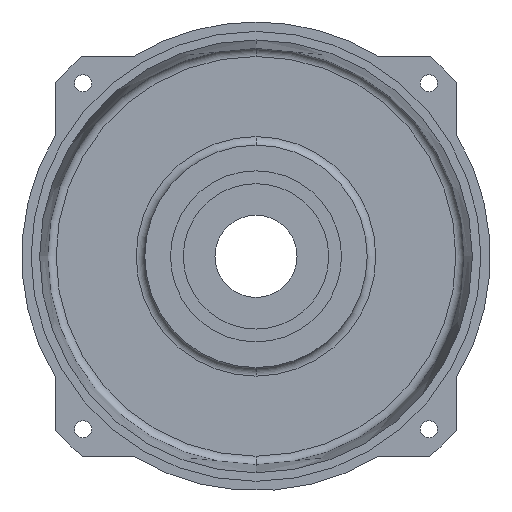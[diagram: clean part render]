
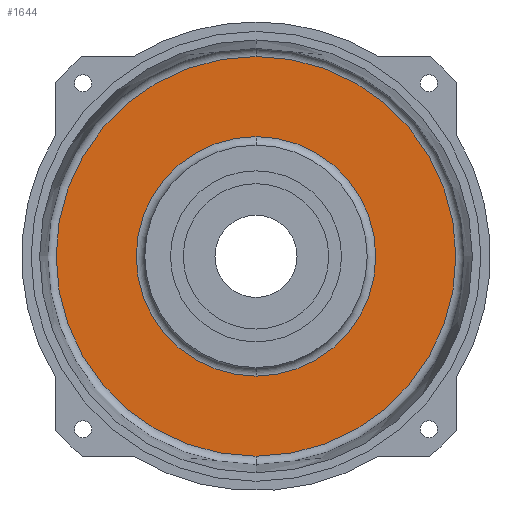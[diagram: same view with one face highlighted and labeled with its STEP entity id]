
A CAD part, front view. The second image highlights one B-rep face of the part: STEP entity #1644.
In plain terms, the highlighted planar face has unit normal (0, -1, 0).
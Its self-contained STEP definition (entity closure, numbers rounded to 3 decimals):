
#195 = CARTESIAN_POINT ( 'NONE',  ( 0., 15.906, 70. ) ) ;
#239 = VERTEX_POINT ( 'NONE', #963 ) ;
#246 = EDGE_CURVE ( 'NONE', #239, #1934, #1000, .T. ) ;
#258 = EDGE_LOOP ( 'NONE', ( #1380, #2303 ) ) ;
#322 = CARTESIAN_POINT ( 'NONE',  ( 0., 15.906, 0. ) ) ;
#326 = CARTESIAN_POINT ( 'NONE',  ( 0., 15.906, 0. ) ) ;
#335 = EDGE_LOOP ( 'NONE', ( #2119, #2733 ) ) ;
#349 = CIRCLE ( 'NONE', #1347, 70. ) ;
#353 = DIRECTION ( 'NONE',  ( 0., 1., 0. ) ) ;
#508 = CARTESIAN_POINT ( 'NONE',  ( 0., 15.906, 116.844 ) ) ;
#525 = DIRECTION ( 'NONE',  ( 0., 0., -1. ) ) ;
#658 = VERTEX_POINT ( 'NONE', #2740 ) ;
#689 = VERTEX_POINT ( 'NONE', #508 ) ;
#730 = PLANE ( 'NONE',  #768 ) ;
#750 = EDGE_CURVE ( 'NONE', #689, #658, #2026, .T. ) ;
#768 = AXIS2_PLACEMENT_3D ( 'NONE', #1178, #1403, #525 ) ;
#779 = DIRECTION ( 'NONE',  ( 0., 1., 0. ) ) ;
#942 = AXIS2_PLACEMENT_3D ( 'NONE', #322, #779, #1230 ) ;
#963 = CARTESIAN_POINT ( 'NONE',  ( 0., 15.906, -70. ) ) ;
#1000 = CIRCLE ( 'NONE', #1770, 70. ) ;
#1027 = DIRECTION ( 'NONE',  ( 0., 0., 1. ) ) ;
#1160 = FACE_OUTER_BOUND ( 'NONE', #258, .T. ) ;
#1178 = CARTESIAN_POINT ( 'NONE',  ( -70., 15.906, 0. ) ) ;
#1230 = DIRECTION ( 'NONE',  ( 0., 0., 1. ) ) ;
#1347 = AXIS2_PLACEMENT_3D ( 'NONE', #326, #2532, #2108 ) ;
#1380 = ORIENTED_EDGE ( 'NONE', *, *, #750, .F. ) ;
#1403 = DIRECTION ( 'NONE',  ( 0., -1., 0. ) ) ;
#1525 = CIRCLE ( 'NONE', #942, 116.844 ) ;
#1594 = AXIS2_PLACEMENT_3D ( 'NONE', #1906, #353, #1027 ) ;
#1644 = ADVANCED_FACE ( 'NONE', ( #2458, #1160 ), #730, .T. ) ;
#1713 = DIRECTION ( 'NONE',  ( 0., 0., 1. ) ) ;
#1770 = AXIS2_PLACEMENT_3D ( 'NONE', #2269, #2371, #1713 ) ;
#1906 = CARTESIAN_POINT ( 'NONE',  ( 0., 15.906, 0. ) ) ;
#1934 = VERTEX_POINT ( 'NONE', #195 ) ;
#2026 = CIRCLE ( 'NONE', #1594, 116.844 ) ;
#2095 = EDGE_CURVE ( 'NONE', #1934, #239, #349, .T. ) ;
#2108 = DIRECTION ( 'NONE',  ( 0., 0., 1. ) ) ;
#2119 = ORIENTED_EDGE ( 'NONE', *, *, #2095, .T. ) ;
#2269 = CARTESIAN_POINT ( 'NONE',  ( 0., 15.906, 0. ) ) ;
#2303 = ORIENTED_EDGE ( 'NONE', *, *, #2782, .F. ) ;
#2371 = DIRECTION ( 'NONE',  ( 0., 1., 0. ) ) ;
#2458 = FACE_BOUND ( 'NONE', #335, .T. ) ;
#2532 = DIRECTION ( 'NONE',  ( 0., 1., 0. ) ) ;
#2733 = ORIENTED_EDGE ( 'NONE', *, *, #246, .T. ) ;
#2740 = CARTESIAN_POINT ( 'NONE',  ( 0., 15.906, -116.844 ) ) ;
#2782 = EDGE_CURVE ( 'NONE', #658, #689, #1525, .T. ) ;
